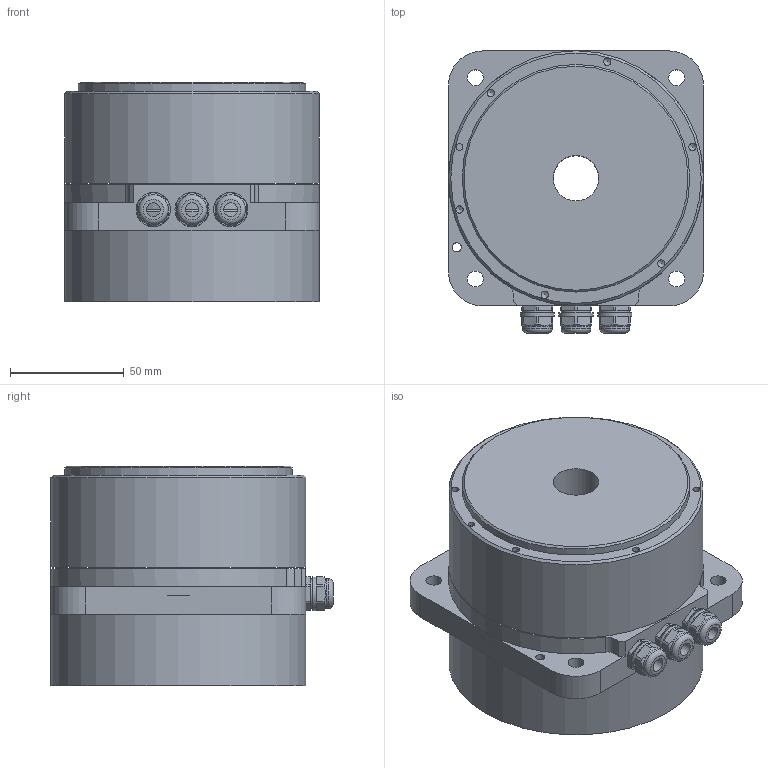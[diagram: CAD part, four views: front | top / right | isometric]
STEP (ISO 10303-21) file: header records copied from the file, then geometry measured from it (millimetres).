
FILE_DESCRIPTION( ( 'STEP AP203' ), '1' );
FILE_NAME( 'E:/LD 系列力矩电机/LD1 系列力矩电机/LD1 系列电机/提供客户3D图档/LD1-112065 力矩电机.stp', '2016-03-28T03:46:46', ( ' ' ), ( ' ' ), 'XStep 1.0', ' ', ' ' );
FILE_SCHEMA( ( 'CONFIG_CONTROL_DESIGN) ( )' ) );
Length unit declared in the file: metre
Products named in the file (4): Assem1; 1; 2; 3
Bounding box: 112 x 124 x 96.5 mm (x, y, z)
Volume: 1242667.6 mm3; surface area: 176848 mm2
Topology: 8 solids, 20 shells, 394 faces, 948 edges, 640 vertices
Faces by surface type: plane 206, cylinder 160, cone 24, torus 4
Full cylindrical faces by diameter (mm): 2.459 x4, 3 x2, 3.242 x12, 4 x10, 4.5 x12, 5 x4, 6 x4, 7 x8, 7.5 x12, 8 x2, 10.376 x6, 12 x4, 13 x8, 15 x4, 20 x4, 53 x4, 54 x2, 62 x2, 84 x2, 100 x2, 112 x2
Entity records: 4465 total; most frequent: CARTESIAN_POINT 916, DIRECTION 751, ORIENTED_EDGE 542, AXIS2_PLACEMENT_3D 323, EDGE_CURVE 271, EDGE_LOOP 265, VERTEX_POINT 218, FACE_OUTER_BOUND 212
